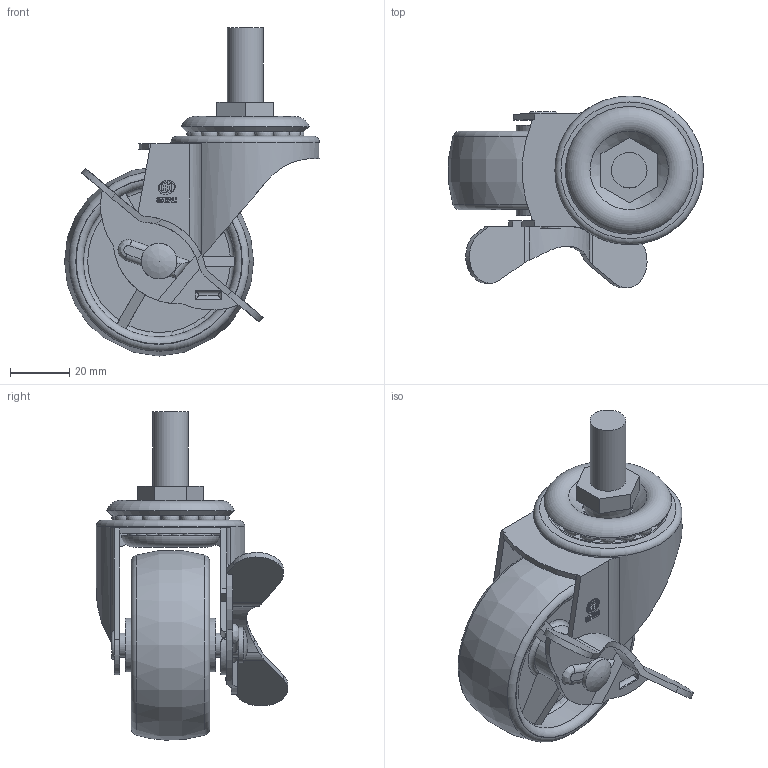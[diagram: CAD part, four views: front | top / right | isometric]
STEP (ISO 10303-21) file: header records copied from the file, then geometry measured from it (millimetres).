
FILE_DESCRIPTION(/* description */ (''),/* implementation_level */ '2;1');
FILE_NAME(/* name */ '10A21_2.5_F.stp',/* time_stamp */ '2022-10-06T13:48:09+08:00',/* author */ (''),/* organization */ (''),/* preprocessor_version */ 'ST-DEVELOPER v14',/* originating_system */ 'SIEMENS PLM Software NX 8.0',/* authorisation */ '');
FILE_SCHEMA (('AUTOMOTIVE_DESIGN { 1 0 10303 214 3 1 1 1 }'));
Length unit declared in the file: millimetre
Products named in the file (1): 10A21_2.5_F
Bounding box: 85.81 x 64.49 x 110.47 mm (x, y, z)
Volume: 73532.3 mm3; surface area: 44031.2 mm2
Topology: 1 solids, 1 shells, 442 faces, 1256 edges, 828 vertices
Faces by surface type: plane 265, cylinder 89, sphere 34, torus 30, bspline 15, cone 9
Full cylindrical faces by diameter (mm): 6.4 x1, 8 x2, 8.2 x1, 8.3 x2, 10 x1, 10.2 x2, 12 x2, 13 x1, 18 x2, 21 x1, 28 x1, 30 x1, 46 x1, 50 x1, 51 x2
Entity records: 17386 total; most frequent: CARTESIAN_POINT 6869, ORIENTED_EDGE 2208, DIRECTION 1997, EDGE_CURVE 1104, VERTEX_POINT 761, AXIS2_PLACEMENT_3D 716, EDGE_LOOP 582, LINE 565
